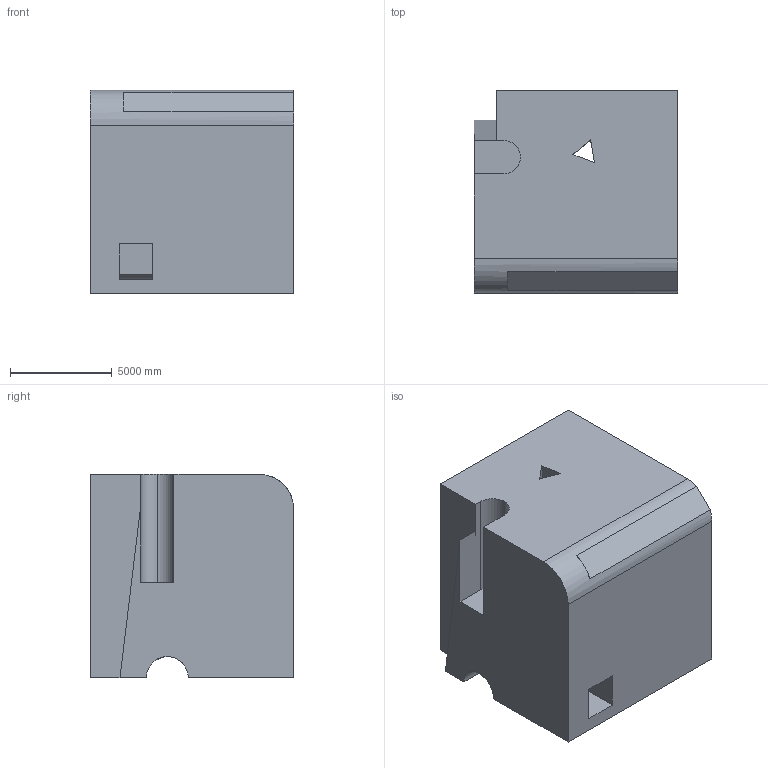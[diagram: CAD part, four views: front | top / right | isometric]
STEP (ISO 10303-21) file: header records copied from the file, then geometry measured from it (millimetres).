
FILE_DESCRIPTION (( 'STEP AP203' ), '1' );
FILE_NAME ('1776.STEP', '2022-08-26T10:36:52', ( 'user' ), ( '' ), 'SwSTEP 2.0', 'SolidWorks 2021', '' );
FILE_SCHEMA (( 'CONFIG_CONTROL_DESIGN' ));
Length unit declared in the file: centimetre
Products named in the file (1): 1776
Bounding box: 10000 x 10000 x 10000 mm (x, y, z)
Volume: 901637277150.3 mm3; surface area: 703485341.5 mm2
Topology: 1 solids, 1 shells, 33 faces, 93 edges, 62 vertices
Faces by surface type: plane 29, cylinder 4
Entity records: 1144 total; most frequent: CARTESIAN_POINT 198, ORIENTED_EDGE 186, DIRECTION 170, EDGE_CURVE 93, LINE 78, VECTOR 78, VERTEX_POINT 62, AXIS2_PLACEMENT_3D 46
